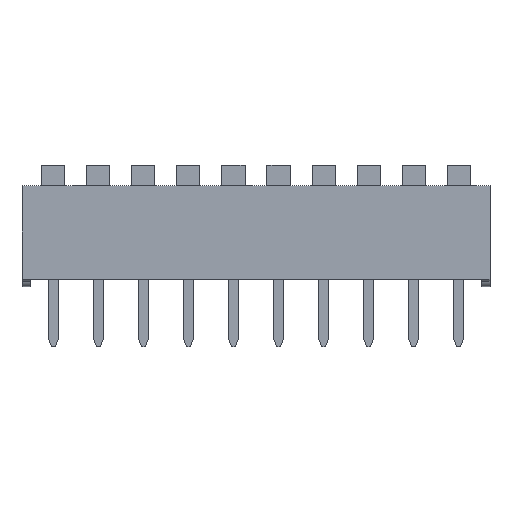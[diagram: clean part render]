
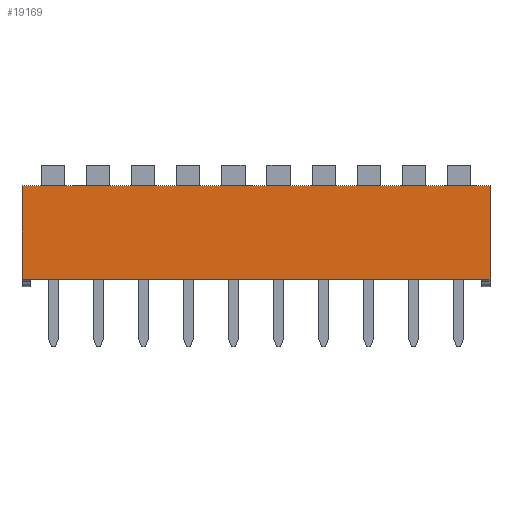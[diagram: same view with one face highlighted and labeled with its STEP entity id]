
A CAD part, front view. The second image highlights one B-rep face of the part: STEP entity #19169.
In plain terms, the highlighted planar face has unit normal (0, -1, 0).
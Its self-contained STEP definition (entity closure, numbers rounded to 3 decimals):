
#102 = PLANE('',#103);
#103 = AXIS2_PLACEMENT_3D('',#104,#105,#106);
#104 = CARTESIAN_POINT('',(-1.77,8.76,0.4));
#105 = DIRECTION('',(-1.,0.,0.));
#106 = DIRECTION('',(0.,-1.,0.));
#249 = VERTEX_POINT('',#250);
#250 = CARTESIAN_POINT('',(-1.77,-1.14,0.4));
#264 = PLANE('',#265);
#265 = AXIS2_PLACEMENT_3D('',#266,#267,#268);
#266 = CARTESIAN_POINT('',(11.43,3.81,0.4));
#267 = DIRECTION('',(0.,0.,1.));
#268 = DIRECTION('',(1.,0.,0.));
#276 = EDGE_CURVE('',#249,#277,#279,.T.);
#277 = VERTEX_POINT('',#278);
#278 = CARTESIAN_POINT('',(-1.77,-1.14,5.7));
#279 = SURFACE_CURVE('',#280,(#284,#291),.PCURVE_S1.);
#280 = LINE('',#281,#282);
#281 = CARTESIAN_POINT('',(-1.77,-1.14,0.4));
#282 = VECTOR('',#283,1.);
#283 = DIRECTION('',(0.,0.,1.));
#284 = PCURVE('',#102,#285);
#285 = DEFINITIONAL_REPRESENTATION('',(#286),#290);
#286 = LINE('',#287,#288);
#287 = CARTESIAN_POINT('',(9.9,0.));
#288 = VECTOR('',#289,1.);
#289 = DIRECTION('',(0.,1.));
#290 = ( GEOMETRIC_REPRESENTATION_CONTEXT(2) 
PARAMETRIC_REPRESENTATION_CONTEXT() REPRESENTATION_CONTEXT('2D SPACE',''
  ) );
#291 = PCURVE('',#292,#297);
#292 = PLANE('',#293);
#293 = AXIS2_PLACEMENT_3D('',#294,#295,#296);
#294 = CARTESIAN_POINT('',(-1.77,-1.14,0.4));
#295 = DIRECTION('',(0.,-1.,0.));
#296 = DIRECTION('',(1.,0.,0.));
#297 = DEFINITIONAL_REPRESENTATION('',(#298),#302);
#298 = LINE('',#299,#300);
#299 = CARTESIAN_POINT('',(0.,0.));
#300 = VECTOR('',#301,1.);
#301 = DIRECTION('',(0.,1.));
#302 = ( GEOMETRIC_REPRESENTATION_CONTEXT(2) 
PARAMETRIC_REPRESENTATION_CONTEXT() REPRESENTATION_CONTEXT('2D SPACE',''
  ) );
#320 = PLANE('',#321);
#321 = AXIS2_PLACEMENT_3D('',#322,#323,#324);
#322 = CARTESIAN_POINT('',(11.43,3.81,5.7));
#323 = DIRECTION('',(0.,0.,1.));
#324 = DIRECTION('',(1.,0.,0.));
#1234 = EDGE_CURVE('',#277,#1235,#1237,.T.);
#1235 = VERTEX_POINT('',#1236);
#1236 = CARTESIAN_POINT('',(24.63,-1.14,5.7));
#1237 = SURFACE_CURVE('',#1238,(#1242,#1249),.PCURVE_S1.);
#1238 = LINE('',#1239,#1240);
#1239 = CARTESIAN_POINT('',(24.63,-1.14,5.7));
#1240 = VECTOR('',#1241,1.);
#1241 = DIRECTION('',(1.,0.,0.));
#1242 = PCURVE('',#320,#1243);
#1243 = DEFINITIONAL_REPRESENTATION('',(#1244),#1248);
#1244 = LINE('',#1245,#1246);
#1245 = CARTESIAN_POINT('',(13.2,-4.95));
#1246 = VECTOR('',#1247,1.);
#1247 = DIRECTION('',(1.,0.));
#1248 = ( GEOMETRIC_REPRESENTATION_CONTEXT(2) 
PARAMETRIC_REPRESENTATION_CONTEXT() REPRESENTATION_CONTEXT('2D SPACE',''
  ) );
#1249 = PCURVE('',#292,#1250);
#1250 = DEFINITIONAL_REPRESENTATION('',(#1251),#1255);
#1251 = LINE('',#1252,#1253);
#1252 = CARTESIAN_POINT('',(26.4,5.3));
#1253 = VECTOR('',#1254,1.);
#1254 = DIRECTION('',(1.,0.));
#1255 = ( GEOMETRIC_REPRESENTATION_CONTEXT(2) 
PARAMETRIC_REPRESENTATION_CONTEXT() REPRESENTATION_CONTEXT('2D SPACE',''
  ) );
#1273 = PLANE('',#1274);
#1274 = AXIS2_PLACEMENT_3D('',#1275,#1276,#1277);
#1275 = CARTESIAN_POINT('',(24.63,-1.14,0.4));
#1276 = DIRECTION('',(1.,0.,0.));
#1277 = DIRECTION('',(0.,1.,0.));
#15269 = VERTEX_POINT('',#15270);
#15270 = CARTESIAN_POINT('',(24.63,-1.14,0.4));
#15291 = EDGE_CURVE('',#15269,#249,#15292,.T.);
#15292 = SURFACE_CURVE('',#15293,(#15297,#15304),.PCURVE_S1.);
#15293 = LINE('',#15294,#15295);
#15294 = CARTESIAN_POINT('',(24.63,-1.14,0.4));
#15295 = VECTOR('',#15296,1.);
#15296 = DIRECTION('',(-1.,0.,0.));
#15297 = PCURVE('',#264,#15298);
#15298 = DEFINITIONAL_REPRESENTATION('',(#15299),#15303);
#15299 = LINE('',#15300,#15301);
#15300 = CARTESIAN_POINT('',(13.2,-4.95));
#15301 = VECTOR('',#15302,1.);
#15302 = DIRECTION('',(-1.,0.));
#15303 = ( GEOMETRIC_REPRESENTATION_CONTEXT(2) 
PARAMETRIC_REPRESENTATION_CONTEXT() REPRESENTATION_CONTEXT('2D SPACE',''
  ) );
#15304 = PCURVE('',#292,#15305);
#15305 = DEFINITIONAL_REPRESENTATION('',(#15306),#15310);
#15306 = LINE('',#15307,#15308);
#15307 = CARTESIAN_POINT('',(26.4,0.));
#15308 = VECTOR('',#15309,1.);
#15309 = DIRECTION('',(-1.,0.));
#15310 = ( GEOMETRIC_REPRESENTATION_CONTEXT(2) 
PARAMETRIC_REPRESENTATION_CONTEXT() REPRESENTATION_CONTEXT('2D SPACE',''
  ) );
#19135 = EDGE_CURVE('',#15269,#1235,#19136,.T.);
#19136 = SURFACE_CURVE('',#19137,(#19141,#19148),.PCURVE_S1.);
#19137 = LINE('',#19138,#19139);
#19138 = CARTESIAN_POINT('',(24.63,-1.14,0.4));
#19139 = VECTOR('',#19140,1.);
#19140 = DIRECTION('',(0.,0.,1.));
#19141 = PCURVE('',#1273,#19142);
#19142 = DEFINITIONAL_REPRESENTATION('',(#19143),#19147);
#19143 = LINE('',#19144,#19145);
#19144 = CARTESIAN_POINT('',(0.,0.));
#19145 = VECTOR('',#19146,1.);
#19146 = DIRECTION('',(0.,1.));
#19147 = ( GEOMETRIC_REPRESENTATION_CONTEXT(2) 
PARAMETRIC_REPRESENTATION_CONTEXT() REPRESENTATION_CONTEXT('2D SPACE',''
  ) );
#19148 = PCURVE('',#292,#19149);
#19149 = DEFINITIONAL_REPRESENTATION('',(#19150),#19154);
#19150 = LINE('',#19151,#19152);
#19151 = CARTESIAN_POINT('',(26.4,0.));
#19152 = VECTOR('',#19153,1.);
#19153 = DIRECTION('',(0.,1.));
#19154 = ( GEOMETRIC_REPRESENTATION_CONTEXT(2) 
PARAMETRIC_REPRESENTATION_CONTEXT() REPRESENTATION_CONTEXT('2D SPACE',''
  ) );
#19169 = ADVANCED_FACE('',(#19170),#292,.T.);
#19170 = FACE_BOUND('',#19171,.T.);
#19171 = EDGE_LOOP('',(#19172,#19173,#19174,#19175));
#19172 = ORIENTED_EDGE('',*,*,#15291,.F.);
#19173 = ORIENTED_EDGE('',*,*,#19135,.T.);
#19174 = ORIENTED_EDGE('',*,*,#1234,.F.);
#19175 = ORIENTED_EDGE('',*,*,#276,.F.);
